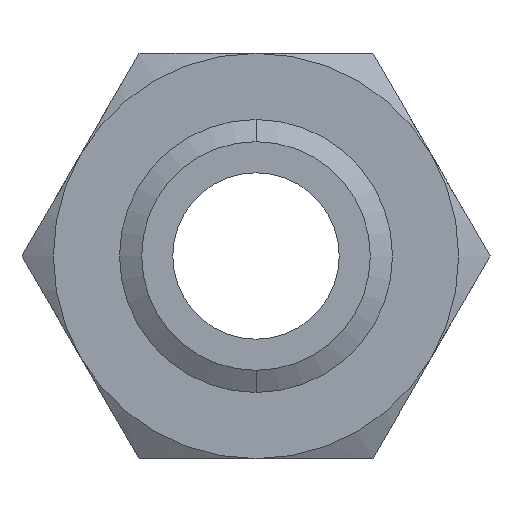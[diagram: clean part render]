
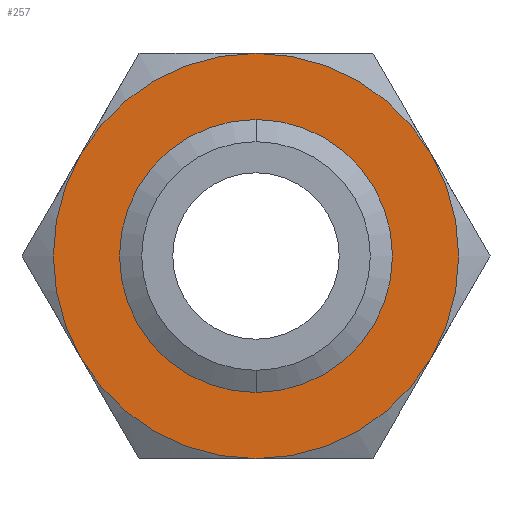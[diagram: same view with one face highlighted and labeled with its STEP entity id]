
A CAD part, front view. The second image highlights one B-rep face of the part: STEP entity #257.
In plain terms, the highlighted planar face has unit normal (0, -1, 0).
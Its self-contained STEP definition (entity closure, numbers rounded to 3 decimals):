
#136 = VERTEX_POINT ( 'NONE', #882 ) ;
#254 = VERTEX_POINT ( 'NONE', #1124 ) ;
#256 = ORIENTED_EDGE ( 'NONE', *, *, #277, .F. ) ;
#257 = ADVANCED_FACE ( 'NONE', ( #1118, #1117 ), #1116, .F. ) ;
#258 = ORIENTED_EDGE ( 'NONE', *, *, #272, .F. ) ;
#259 = VERTEX_POINT ( 'NONE', #1114 ) ;
#262 = VERTEX_POINT ( 'NONE', #1103 ) ;
#263 = ORIENTED_EDGE ( 'NONE', *, *, #316, .F. ) ;
#267 = ORIENTED_EDGE ( 'NONE', *, *, #268, .F. ) ;
#268 = EDGE_CURVE ( 'NONE', #269, #271, #1101, .T. ) ;
#269 = VERTEX_POINT ( 'NONE', #1165 ) ;
#270 = EDGE_CURVE ( 'NONE', #271, #262, #1164, .T. ) ;
#271 = VERTEX_POINT ( 'NONE', #1159 ) ;
#272 = EDGE_CURVE ( 'NONE', #259, #136, #1158, .T. ) ;
#273 = EDGE_LOOP ( 'NONE', ( #258, #256, #280, #281, #267, #283 ) ) ;
#277 = EDGE_CURVE ( 'NONE', #254, #259, #1148, .T. ) ;
#279 = EDGE_LOOP ( 'NONE', ( #263, #288 ) ) ;
#280 = ORIENTED_EDGE ( 'NONE', *, *, #290, .F. ) ;
#281 = ORIENTED_EDGE ( 'NONE', *, *, #270, .F. ) ;
#283 = ORIENTED_EDGE ( 'NONE', *, *, #284, .F. ) ;
#284 = EDGE_CURVE ( 'NONE', #136, #269, #1140, .T. ) ;
#288 = ORIENTED_EDGE ( 'NONE', *, *, #292, .F. ) ;
#290 = EDGE_CURVE ( 'NONE', #262, #254, #1193, .T. ) ;
#292 = EDGE_CURVE ( 'NONE', #319, #317, #1178, .T. ) ;
#316 = EDGE_CURVE ( 'NONE', #317, #319, #1199, .T. ) ;
#317 = VERTEX_POINT ( 'NONE', #1194 ) ;
#319 = VERTEX_POINT ( 'NONE', #1254 ) ;
#882 = CARTESIAN_POINT ( 'NONE',  ( 41.136, 0., 23.75 ) ) ;
#1097 = DIRECTION ( 'NONE',  ( 0., 0., 1. ) ) ;
#1098 = DIRECTION ( 'NONE',  ( 0., 1., 0. ) ) ;
#1099 = CARTESIAN_POINT ( 'NONE',  ( 0., 0., 0. ) ) ;
#1100 = AXIS2_PLACEMENT_3D ( 'NONE', #1099, #1098, #1097 ) ;
#1101 = CIRCLE ( 'NONE', #1100, 47.5 ) ;
#1103 = CARTESIAN_POINT ( 'NONE',  ( -41.136, 0., -23.75 ) ) ;
#1111 = DIRECTION ( 'NONE',  ( 0., 0., 1. ) ) ;
#1112 = DIRECTION ( 'NONE',  ( 0., 1., 0. ) ) ;
#1113 = CARTESIAN_POINT ( 'NONE',  ( 27.424, 0., -47.5 ) ) ;
#1114 = CARTESIAN_POINT ( 'NONE',  ( 0., 0., 47.5 ) ) ;
#1115 = AXIS2_PLACEMENT_3D ( 'NONE', #1113, #1112, #1111 ) ;
#1116 = PLANE ( 'NONE',  #1115 ) ;
#1117 = FACE_BOUND ( 'NONE', #279, .T. ) ;
#1118 = FACE_OUTER_BOUND ( 'NONE', #273, .T. ) ;
#1124 = CARTESIAN_POINT ( 'NONE',  ( -41.136, 0., 23.75 ) ) ;
#1136 = DIRECTION ( 'NONE',  ( 0., 0., 1. ) ) ;
#1137 = DIRECTION ( 'NONE',  ( 0., 1., 0. ) ) ;
#1138 = CARTESIAN_POINT ( 'NONE',  ( 0., 0., 0. ) ) ;
#1139 = AXIS2_PLACEMENT_3D ( 'NONE', #1138, #1137, #1136 ) ;
#1140 = CIRCLE ( 'NONE', #1139, 47.5 ) ;
#1144 = DIRECTION ( 'NONE',  ( 0., 0., 1. ) ) ;
#1145 = DIRECTION ( 'NONE',  ( 0., 1., 0. ) ) ;
#1146 = CARTESIAN_POINT ( 'NONE',  ( 0., 0., 0. ) ) ;
#1147 = AXIS2_PLACEMENT_3D ( 'NONE', #1146, #1145, #1144 ) ;
#1148 = CIRCLE ( 'NONE', #1147, 47.5 ) ;
#1154 = DIRECTION ( 'NONE',  ( 0., 0., 1. ) ) ;
#1155 = DIRECTION ( 'NONE',  ( 0., 1., 0. ) ) ;
#1156 = CARTESIAN_POINT ( 'NONE',  ( 0., 0., 0. ) ) ;
#1157 = AXIS2_PLACEMENT_3D ( 'NONE', #1156, #1155, #1154 ) ;
#1158 = CIRCLE ( 'NONE', #1157, 47.5 ) ;
#1159 = CARTESIAN_POINT ( 'NONE',  ( 0., 0., -47.5 ) ) ;
#1160 = DIRECTION ( 'NONE',  ( 0., 0., 1. ) ) ;
#1161 = DIRECTION ( 'NONE',  ( 0., 1., 0. ) ) ;
#1162 = CARTESIAN_POINT ( 'NONE',  ( 0., 0., 0. ) ) ;
#1163 = AXIS2_PLACEMENT_3D ( 'NONE', #1162, #1161, #1160 ) ;
#1164 = CIRCLE ( 'NONE', #1163, 47.5 ) ;
#1165 = CARTESIAN_POINT ( 'NONE',  ( 41.136, 0., -23.75 ) ) ;
#1175 = DIRECTION ( 'NONE',  ( 0., 0., -1. ) ) ;
#1176 = DIRECTION ( 'NONE',  ( 0., -1., 0. ) ) ;
#1177 = AXIS2_PLACEMENT_3D ( 'NONE', #1182, #1176, #1175 ) ;
#1178 = CIRCLE ( 'NONE', #1177, 26.804 ) ;
#1182 = CARTESIAN_POINT ( 'NONE',  ( 0., 0., 0. ) ) ;
#1187 = DIRECTION ( 'NONE',  ( 0., 0., 1. ) ) ;
#1188 = DIRECTION ( 'NONE',  ( 0., 1., 0. ) ) ;
#1189 = CARTESIAN_POINT ( 'NONE',  ( 0., 0., 0. ) ) ;
#1190 = AXIS2_PLACEMENT_3D ( 'NONE', #1189, #1188, #1187 ) ;
#1193 = CIRCLE ( 'NONE', #1190, 47.5 ) ;
#1194 = CARTESIAN_POINT ( 'NONE',  ( 0., 0., -26.804 ) ) ;
#1195 = DIRECTION ( 'NONE',  ( 0., 0., -1. ) ) ;
#1196 = DIRECTION ( 'NONE',  ( 0., -1., 0. ) ) ;
#1197 = CARTESIAN_POINT ( 'NONE',  ( 0., 0., 0. ) ) ;
#1198 = AXIS2_PLACEMENT_3D ( 'NONE', #1197, #1196, #1195 ) ;
#1199 = CIRCLE ( 'NONE', #1198, 26.804 ) ;
#1254 = CARTESIAN_POINT ( 'NONE',  ( 0., 0., 26.804 ) ) ;
